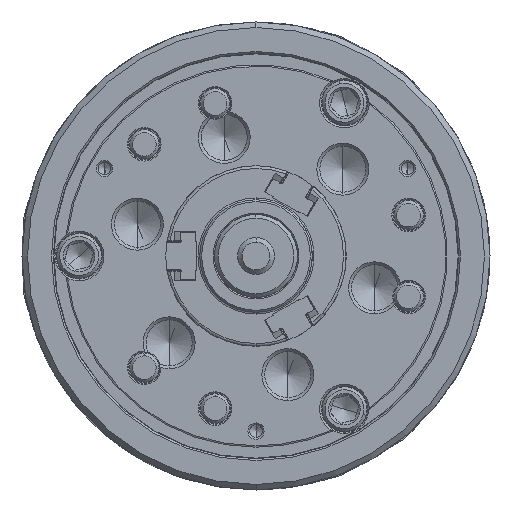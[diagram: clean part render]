
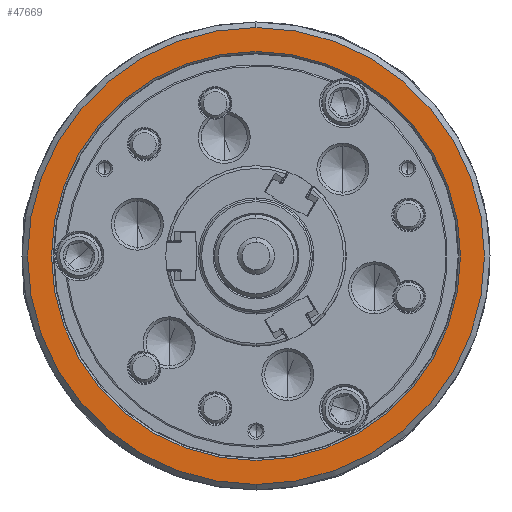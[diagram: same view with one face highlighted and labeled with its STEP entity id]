
A CAD part, left-side view. The second image highlights one B-rep face of the part: STEP entity #47669.
In plain terms, the highlighted planar face has unit normal (-1, 0, 0).
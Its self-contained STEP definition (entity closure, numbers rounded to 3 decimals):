
#407 = AXIS2_PLACEMENT_3D ( 'NONE', #40342, #5224, #22756 ) ;
#1182 = EDGE_CURVE ( 'NONE', #52493, #94523, #62772, .T. ) ;
#1282 = FACE_BOUND ( 'NONE', #94322, .T. ) ;
#2467 = CARTESIAN_POINT ( 'NONE',  ( -89., -124., 0. ) ) ;
#5224 = DIRECTION ( 'NONE',  ( 1., 0., 0. ) ) ;
#7185 = CIRCLE ( 'NONE', #92207, 124. ) ;
#9440 = EDGE_CURVE ( 'NONE', #94523, #52493, #52601, .T. ) ;
#10921 = DIRECTION ( 'NONE',  ( 1., 0., 0. ) ) ;
#20011 = DIRECTION ( 'NONE',  ( 0., 0., -1. ) ) ;
#22756 = DIRECTION ( 'NONE',  ( 0., 0., -1. ) ) ;
#22858 = EDGE_CURVE ( 'NONE', #105218, #58470, #117631, .T. ) ;
#29078 = FACE_OUTER_BOUND ( 'NONE', #75150, .T. ) ;
#30069 = DIRECTION ( 'NONE',  ( 1., 0., 0. ) ) ;
#33023 = CARTESIAN_POINT ( 'NONE',  ( -89., 0., -111. ) ) ;
#34422 = DIRECTION ( 'NONE',  ( 1., 0., 0. ) ) ;
#35708 = AXIS2_PLACEMENT_3D ( 'NONE', #113759, #47167, #87108 ) ;
#38668 = ORIENTED_EDGE ( 'NONE', *, *, #9440, .T. ) ;
#40342 = CARTESIAN_POINT ( 'NONE',  ( -89., 0., 0. ) ) ;
#47167 = DIRECTION ( 'NONE',  ( 1., 0., 0. ) ) ;
#47669 = ADVANCED_FACE ( 'NONE', ( #29078, #1282 ), #65999, .F. ) ;
#49513 = ORIENTED_EDGE ( 'NONE', *, *, #116283, .F. ) ;
#52493 = VERTEX_POINT ( 'NONE', #99370 ) ;
#52601 = CIRCLE ( 'NONE', #407, 111. ) ;
#58470 = VERTEX_POINT ( 'NONE', #84096 ) ;
#60769 = CARTESIAN_POINT ( 'NONE',  ( -89., 0., 0. ) ) ;
#62772 = CIRCLE ( 'NONE', #35708, 111. ) ;
#65999 = PLANE ( 'NONE',  #95527 ) ;
#75150 = EDGE_LOOP ( 'NONE', ( #49513, #103956 ) ) ;
#79838 = DIRECTION ( 'NONE',  ( 0., 0., -1. ) ) ;
#82755 = AXIS2_PLACEMENT_3D ( 'NONE', #60769, #30069, #94276 ) ;
#84096 = CARTESIAN_POINT ( 'NONE',  ( -89., 0., -124. ) ) ;
#87108 = DIRECTION ( 'NONE',  ( 0., 0., -1. ) ) ;
#92207 = AXIS2_PLACEMENT_3D ( 'NONE', #117401, #34422, #79838 ) ;
#94276 = DIRECTION ( 'NONE',  ( 0., 0., -1. ) ) ;
#94322 = EDGE_LOOP ( 'NONE', ( #102207, #38668 ) ) ;
#94523 = VERTEX_POINT ( 'NONE', #33023 ) ;
#95527 = AXIS2_PLACEMENT_3D ( 'NONE', #2467, #10921, #20011 ) ;
#99370 = CARTESIAN_POINT ( 'NONE',  ( -89., 0., 111. ) ) ;
#102207 = ORIENTED_EDGE ( 'NONE', *, *, #1182, .T. ) ;
#103956 = ORIENTED_EDGE ( 'NONE', *, *, #22858, .F. ) ;
#105218 = VERTEX_POINT ( 'NONE', #110686 ) ;
#110686 = CARTESIAN_POINT ( 'NONE',  ( -89., 0., 124. ) ) ;
#113759 = CARTESIAN_POINT ( 'NONE',  ( -89., 0., 0. ) ) ;
#116283 = EDGE_CURVE ( 'NONE', #58470, #105218, #7185, .T. ) ;
#117401 = CARTESIAN_POINT ( 'NONE',  ( -89., 0., 0. ) ) ;
#117631 = CIRCLE ( 'NONE', #82755, 124. ) ;
